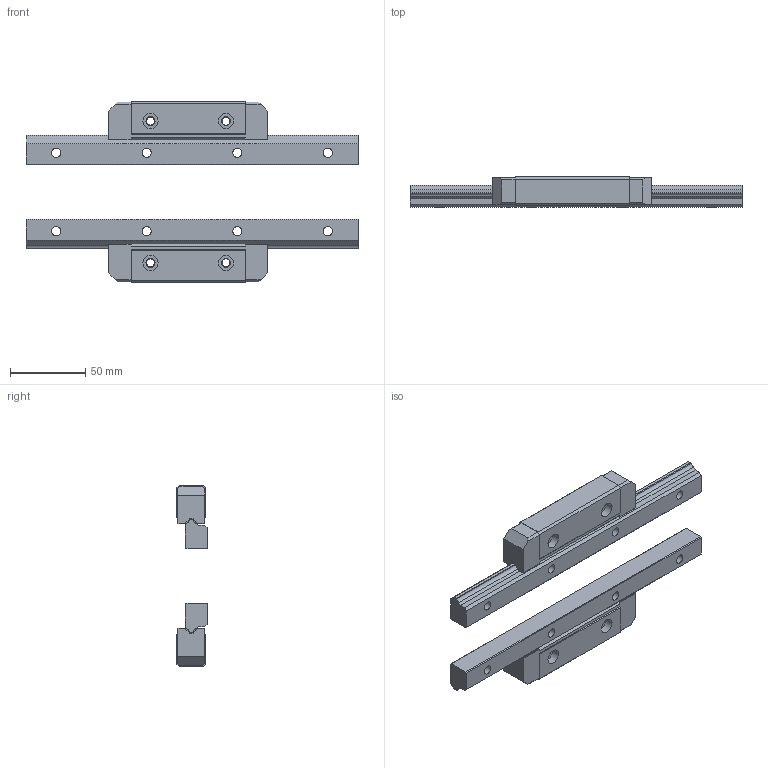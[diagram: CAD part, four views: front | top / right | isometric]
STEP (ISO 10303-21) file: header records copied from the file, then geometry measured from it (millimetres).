
FILE_DESCRIPTION(/* description */ ('STEP AP203'),/* implementation_level */ '2;1');
FILE_NAME(/* name */ 'HR2042T-220L_G20_52_57-15_0_0_0',/* time_stamp */ '2024-05-21T10:52:53+02:00',/* author */ ('License CC BY-ND 4.0'),/* organization */ ('CADENAS'),/* preprocessor_version */ 'ST-DEVELOPER v19.3',/* originating_system */ 'PARTsolutions',/* authorisation */ ' ');
FILE_SCHEMA (('CONFIG_CONTROL_DESIGN'));
Length unit declared in the file: millimetre
Products named in the file (5): HR2042T-220L_G20_52_57-15_0_0_0; HR2042T122020-Rail; HR2042T-Slider; HR2042T122020-Rail 2; HR2042T-Slider2
Assembly tree (4 placements, depth 2):
  HR2042T-220L_G20_52_57-15_0_0_0
    HR2042T122020-Rail
    HR2042T-Slider
    HR2042T122020-Rail 2
    HR2042T-Slider2
Bounding box: 220 x 20 x 120 mm (x, y, z)
Volume: 193060.6 mm3; surface area: 52773 mm2
Topology: 4 solids, 4 shells, 184 faces, 475 edges, 311 vertices
Faces by surface type: plane 140, cylinder 34, cone 10
Full cylindrical faces by diameter (mm): 3 x2, 5.3 x4, 6 x8, 9.5 x8, 10 x4
Entity records: 5515 total; most frequent: CARTESIAN_POINT 935, DIRECTION 890, ORIENTED_EDGE 872, EDGE_CURVE 436, LINE 360, VECTOR 360, VERTEX_POINT 310, AXIS2_PLACEMENT_3D 265
